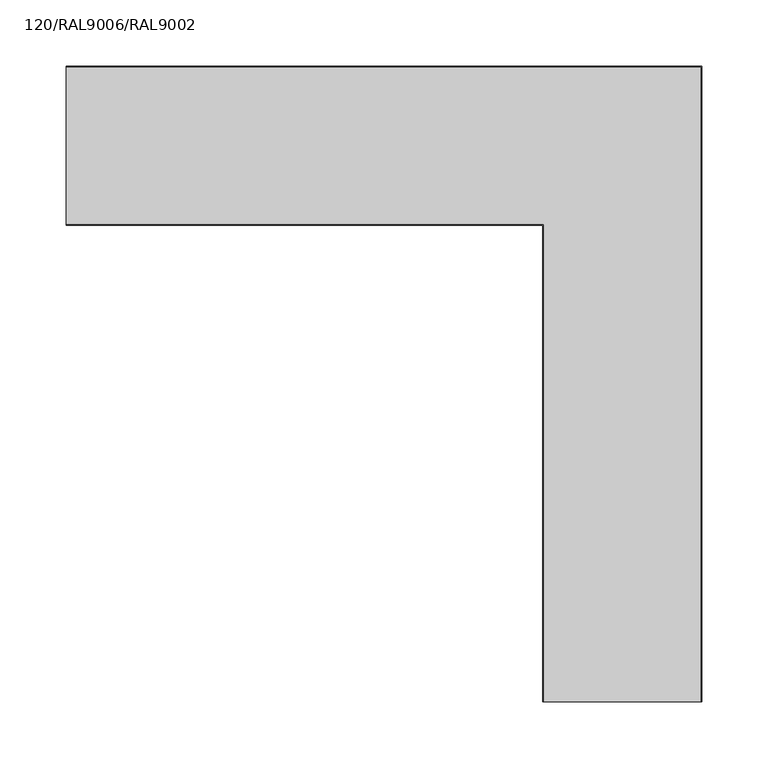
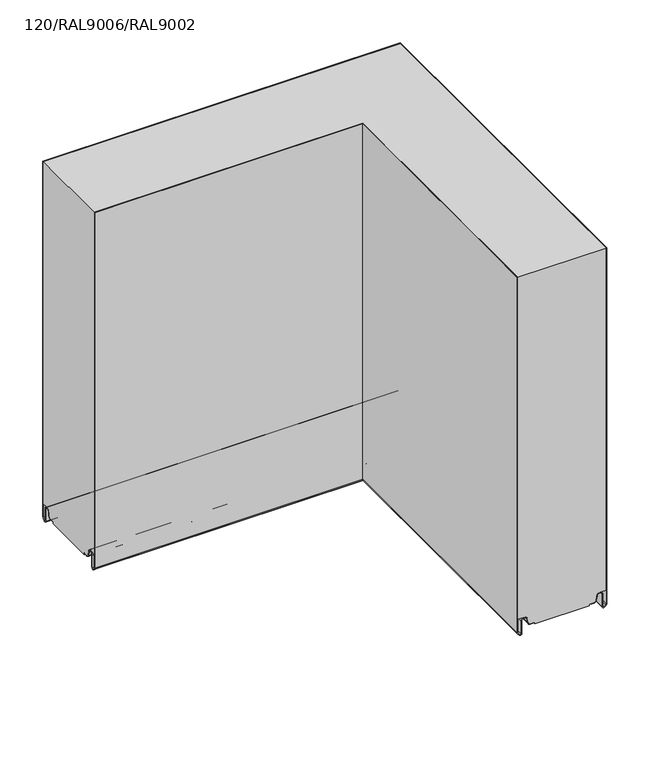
"""IFC4 building model written with IfcOpenShell, lengths in millimetres: plate geometry, TR_C_H_FTV_Corner_Tr_A_cut_GROOVE : 120/RAL9006/RAL9002."""

from ifc_helpers import new_model, si_unit, frame, origin, place, context, project, spatial, polyline, circle_curve, ellipse_curve, source, transform, mapped, element, save
from ifc_brep_helpers import plane_surface, cylinder_surface, revolved_surface, advanced_brep


def plate_120_ral9006_ral9002_a23da970(model_context):
    return source(origin(), model_context, "Body", "AdvancedBrep", [
        advanced_brep(
        [(120.8, -480.0, 14.4000012), (129.45, -480.0, 14.4000012), (133.635433, -480.0, 10.8880059), (134.7022582, -480.0, 4.837739), (137.6074411, -480.0, 2.4000012), (143.7, -480.0, 2.4000012), (143.7, -480.0, 0.0), (216.3, -480.0, 0.0), (216.3, -480.0, 2.4000012), (222.3925589, -480.0, 2.4000012), (225.2977418, -480.0, 4.837739), (226.364567, -480.0, 10.8880059), (230.55, -480.0, 14.4000012), (239.2, -480.0, 14.4000012), (239.2, -480.0, 500.0), (120.8, -480.0, 500.0), (133.635433, -106.364567, 10.8880059), (129.45, -110.55, 14.4000012), (-240.0, -110.55, 14.4000012), (-240.0, -106.364567, 10.8880059), (-240.0, -105.2977418, 4.837739), (134.7022582, -105.2977418, 4.837739), (-240.0, -102.3925589, 2.4000012), (137.6074411, -102.3925589, 2.4000012), (143.7, -96.3, 0.0), (143.7, -96.3, 2.4000012), (-240.0, -96.3, 2.4000012), (-240.0, -96.3, 0.0), (216.3, -23.7, 2.4000012), (216.3, -23.7, 0.0), (-240.0, -23.7, 0.0), (-240.0, -23.7, 2.4000012), (225.2977418, -14.7022582, 4.837739), (222.3925589, -17.6074411, 2.4000012), (-240.0, -17.6074411, 2.4000012), (-240.0, -14.7022582, 4.837739), (-240.0, -13.635433, 10.8880059), (226.364567, -13.635433, 10.8880059), (-240.0, -9.45, 14.4000012), (230.55, -9.45, 14.4000012), (-240.0, -119.2, 14.4000012), (-240.0, -119.2, 500.0), (-240.0, -0.8, 500.0), (-240.0, -0.8, 14.4000012), (120.8, -119.2, 14.4000012), (239.2, -0.8, 14.4000012), (239.2, -0.8, 500.0), (120.8, -119.2, 500.0)],
        [
            (0, 1),
            (1, 2, circle_curve(frame((129.45, -480.0, 10.1500012), z_axis=(0.0, 1.0, 0.0), x_axis=(-1.0, 0.0, 0.0)), 4.25)),
            (2, 3),
            (3, 4, circle_curve(frame((137.6074411, -480.0, 5.3500012), z_axis=(0.0, -1.0, 0.0), x_axis=(-1.0, 0.0, 0.0)), 2.95)),
            (4, 5),
            (5, 6),
            (6, 7),
            (7, 8),
            (8, 9),
            (9, 10, circle_curve(frame((222.3925589, -480.0, 5.3500012), z_axis=(0.0, -1.0, 0.0), x_axis=(-1.0, 0.0, 0.0)), 2.95)),
            (10, 11),
            (11, 12, circle_curve(frame((230.55, -480.0, 10.1500012), z_axis=(0.0, 1.0, 0.0), x_axis=(-1.0, 0.0, 0.0)), 4.25)),
            (12, 13),
            (13, 14),
            (14, 15),
            (15, 0),
            (16, 17, ellipse_curve(frame((129.45, -110.55, 10.1500012), z_axis=(0.7071067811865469, -0.7071067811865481, 0.0), x_axis=(-0.7071067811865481, -0.7071067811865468, 0.0)), 6.0104076, 4.25)),
            (17, 18),
            (18, 19, circle_curve(frame((-240.0, -110.55, 10.1500012), z_axis=(-1.0, 0.0, 0.0), x_axis=(0.0, -1.0, 0.0)), 4.25)),
            (19, 16),
            (19, 20),
            (20, 21),
            (21, 16),
            (20, 22, circle_curve(frame((-240.0, -102.3925589, 5.3500012), z_axis=(1.0, 0.0, 0.0), x_axis=(0.0, -1.0, 0.0)), 2.95)),
            (22, 23),
            (23, 21, ellipse_curve(frame((137.6074411, -102.3925589, 5.3500012), z_axis=(-0.7071067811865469, 0.7071067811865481, 0.0), x_axis=(0.7071067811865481, 0.7071067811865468, 0.0)), 4.17193, 2.95)),
            (24, 25),
            (25, 26),
            (26, 27),
            (27, 24),
            (28, 29),
            (29, 30),
            (30, 31),
            (31, 28),
            (32, 33, ellipse_curve(frame((222.3925589, -17.6074411, 5.3500012), z_axis=(-0.7071067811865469, 0.7071067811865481, 0.0), x_axis=(0.7071067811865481, 0.7071067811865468, 0.0)), 4.17193, 2.95)),
            (33, 34),
            (34, 35, circle_curve(frame((-240.0, -17.6074411, 5.3500012), z_axis=(1.0, 0.0, 0.0), x_axis=(0.0, -1.0, 0.0)), 2.95)),
            (35, 32),
            (35, 36),
            (36, 37),
            (37, 32),
            (36, 38, circle_curve(frame((-240.0, -9.45, 10.1500012), z_axis=(-1.0, 0.0, 0.0), x_axis=(0.0, -1.0, 0.0)), 4.25)),
            (38, 39),
            (39, 37, ellipse_curve(frame((230.55, -9.45, 10.1500012), z_axis=(0.7071067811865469, -0.7071067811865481, 0.0), x_axis=(-0.7071067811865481, -0.7071067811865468, 0.0)), 6.0104076, 4.25)),
            (18, 40),
            (40, 41),
            (41, 42),
            (42, 43),
            (43, 38),
            (34, 31),
            (30, 27),
            (26, 22),
            (0, 44),
            (44, 40),
            (17, 1),
            (16, 2),
            (21, 3),
            (23, 4),
            (25, 5),
            (24, 6),
            (29, 7),
            (28, 8),
            (33, 9),
            (32, 10),
            (37, 11),
            (39, 12),
            (43, 45),
            (45, 13),
            (45, 46),
            (46, 14),
            (15, 47),
            (47, 44),
            (42, 46),
            (47, 41),
        ],
        [
            plane_surface(frame((240.0, -480.0, 0.0), z_axis=(0.0, -1.0, 0.0), x_axis=(0.0, 0.0, 1.0))),
            revolved_surface(polyline([(-240.0, -114.8, 10.1500012), (133.69999997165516, -114.8, 10.1500012)]), (240.0, -110.55, 10.1500012), (-1.0, 0.0, 0.0)),
            plane_surface(frame((133.635433, -106.364567, 10.8880059), z_axis=(0.0, -0.9848077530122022, -0.1736481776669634), x_axis=(-1.0, 0.0, 0.0))),
            cylinder_surface(frame((240.0, -102.3925589, 5.3500012), z_axis=(1.0, 0.0, 0.0), x_axis=(0.0, -1.0, 0.0)), 2.95),
            plane_surface(frame((143.7, -96.3, 2.4000012), z_axis=(0.0, -1.0, 0.0), x_axis=(-1.0, 0.0, 0.0))),
            plane_surface(frame((216.3, -23.7, 0.0), z_axis=(0.0, 1.0, 0.0), x_axis=(-1.0, 0.0, 0.0))),
            cylinder_surface(frame((240.0, -17.6074411, 5.3500012), z_axis=(1.0, 0.0, 0.0), x_axis=(0.0, -1.0, 0.0)), 2.95),
            plane_surface(frame((225.2977418, -14.7022582, 4.837739), z_axis=(0.0, 0.9848077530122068, -0.1736481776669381), x_axis=(-1.0, 0.0, 0.0))),
            revolved_surface(polyline([(-240.0, -13.7, 10.1500012), (234.79999997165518, -13.7, 10.1500012)]), (240.0, -9.45, 10.1500012), (-1.0, 0.0, 0.0)),
            plane_surface(frame((-240.0, 0.0, 0.0), z_axis=(-1.0, 0.0, 0.0), x_axis=(0.0, 0.0, 1.0))),
            plane_surface(frame((120.8, -480.0, 14.4000012), z_axis=(0.0, 0.0, -1.0), x_axis=(0.0, 1.0, 0.0))),
            revolved_surface(polyline([(125.19999999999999, -106.30000002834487, 10.1500012), (125.19999999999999, -480.0, 10.1500012)]), (129.45, -480.0, 10.1500012), (0.0, 1.0, 0.0)),
            plane_surface(frame((133.635433, -480.0, 10.8880059), z_axis=(-0.9848077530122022, 0.0, -0.1736481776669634), x_axis=(0.0, 1.0, 0.0))),
            cylinder_surface(frame((137.6074411, -480.0, 5.3500012), z_axis=(0.0, -1.0, 0.0), x_axis=(-1.0, 0.0, 0.0)), 2.95),
            plane_surface(frame((137.6074411, -480.0, 2.4000012), z_axis=(0.0, 0.0, -1.0), x_axis=(0.0, 1.0, 0.0))),
            plane_surface(frame((143.7, -480.0, 2.4000012), z_axis=(-1.0, 0.0, 0.0), x_axis=(0.0, 1.0, 0.0))),
            plane_surface(frame((143.7, -480.0, 0.0), z_axis=(0.0, 0.0, -1.0), x_axis=(0.0, 1.0, 0.0))),
            plane_surface(frame((216.3, -480.0, 0.0), z_axis=(1.0, 0.0, 0.0), x_axis=(0.0, 1.0, 0.0))),
            plane_surface(frame((216.3, -480.0, 2.4000012), z_axis=(0.0, 0.0, -1.0), x_axis=(0.0, 1.0, 0.0))),
            cylinder_surface(frame((222.3925589, -480.0, 5.3500012), z_axis=(0.0, -1.0, 0.0), x_axis=(-1.0, 0.0, 0.0)), 2.95),
            plane_surface(frame((225.2977418, -480.0, 4.837739), z_axis=(0.9848077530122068, 0.0, -0.1736481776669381), x_axis=(0.0, 1.0, 0.0))),
            revolved_surface(polyline([(226.3, -5.200000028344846, 10.1500012), (226.3, -480.0, 10.1500012)]), (230.55, -480.0, 10.1500012), (0.0, 1.0, 0.0)),
            plane_surface(frame((230.55, -480.0, 14.4000012), z_axis=(0.0, 0.0, -1.0), x_axis=(0.0, 1.0, 0.0))),
            plane_surface(frame((239.2, -480.0, 14.4000012), z_axis=(1.0, 0.0, 0.0), x_axis=(0.0, 1.0, 0.0))),
            plane_surface(frame((120.8, -480.0, 984.3218254), z_axis=(-1.0, 0.0, 0.0), x_axis=(0.0, 1.0, 0.0))),
            plane_surface(frame((239.2, -0.8, 14.4000012), z_axis=(0.0, 1.0, 0.0), x_axis=(-1.0, 0.0, 0.0))),
            plane_surface(frame((120.8, -119.2, 984.3218254), z_axis=(0.0, -1.0, 0.0), x_axis=(-1.0, 0.0, 0.0))),
            plane_surface(frame((120.0, -480.0, 500.0), z_axis=(0.0, 0.0, 1.0), x_axis=(0.0, 1.0, 0.0))),
        ],
        [
            (0, [[1, 2, 3, 4, 5, 6, 7, 8, 9, 10, 11, 12, 13, 14, 15, 16]]),
            (1, [[17, 18, 19, 20]]),
            (2, [[-20, 21, 22, 23]]),
            (3, [[-22, 24, 25, 26]]),
            (4, [[27, 28, 29, 30]]),
            (5, [[31, 32, 33, 34]]),
            (6, [[35, 36, 37, 38]]),
            (7, [[-38, 39, 40, 41]]),
            (8, [[-40, 42, 43, 44]]),
            (9, [[-19, 45, 46, 47, 48, 49, -42, -39, -37, 50, -33, 51, -29, 52, -24, -21]]),
            (10, [[-1, 53, 54, -45, -18, 55]]),
            (11, [[-2, -55, -17, 56]]),
            (12, [[-3, -56, -23, 57]]),
            (13, [[-4, -57, -26, 58]]),
            (14, [[-5, -58, -25, -52, -28, 59]]),
            (15, [[-6, -59, -27, 60]]),
            (16, [[-7, -60, -30, -51, -32, 61]]),
            (17, [[-8, -61, -31, 62]]),
            (18, [[-9, -62, -34, -50, -36, 63]]),
            (19, [[-10, -63, -35, 64]]),
            (20, [[-11, -64, -41, 65]]),
            (21, [[-12, -65, -44, 66]]),
            (22, [[-13, -66, -43, -49, 67, 68]]),
            (23, [[-68, 69, 70, -14]]),
            (24, [[-53, -16, 71, 72]]),
            (25, [[-67, -48, 73, -69]]),
            (26, [[-54, -72, 74, -46]]),
            (27, [[-15, -70, -73, -47, -74, -71]]),
        ],
    ),
        advanced_brep(
        [(239.2, -480.0, -5.018628), (238.6288582, -480.0, -6.3974862), (236.7631728, -480.0, -8.2631716), (234.8, -480.0, -7.4499988), (234.8, -480.0, 10.1500012), (226.364567, -480.0, 10.8880059), (225.2977418, -480.0, 4.837739), (222.3925589, -480.0, 2.4000012), (219.0, -480.0, 2.4000012), (219.0, -480.0, 1.6000012), (222.3925589, -480.0, 1.6000012), (226.085588, -480.0, 4.6988205), (227.1524133, -480.0, 10.7490874), (234.0, -480.0, 10.1500012), (234.0, -480.0, -7.4499988), (237.3288582, -480.0, -8.8288571), (239.1945436, -480.0, -6.9631716), (240.0, -480.0, -5.018628), (240.0, -480.0, 500.0), (239.2, -480.0, 500.0), (238.6288582, -1.3711418, -6.3974862), (239.2, -0.8, -5.018628), (-240.0, -0.8, -5.018628), (-240.0, -1.3711418, -6.3974862), (-240.0, -3.2368272, -8.2631716), (236.7631728, -3.2368272, -8.2631716), (-240.0, -5.2, -7.4499988), (234.8, -5.2, -7.4499988), (-240.0, -5.2, 10.1500012), (234.8, -5.2, 10.1500012), (-240.0, -13.635433, 10.8880059), (226.364567, -13.635433, 10.8880059), (-240.0, -14.7022582, 4.837739), (225.2977418, -14.7022582, 4.837739), (-240.0, -17.6074411, 2.4000012), (222.3925589, -17.6074411, 2.4000012), (219.0, -21.0, 1.6000012), (219.0, -21.0, 2.4000012), (-240.0, -21.0, 2.4000012), (-240.0, -21.0, 1.6000012), (226.085588, -13.914412, 4.6988205), (222.3925589, -17.6074411, 1.6000012), (-240.0, -17.6074411, 1.6000012), (-240.0, -13.914412, 4.6988205), (-240.0, -12.8475867, 10.7490874), (227.1524133, -12.8475867, 10.7490874), (-240.0, -6.0, 10.1500012), (234.0, -6.0, 10.1500012), (-240.0, -6.0, -7.4499988), (234.0, -6.0, -7.4499988), (-240.0, -2.6711418, -8.8288571), (237.3288582, -2.6711418, -8.8288571), (-240.0, -0.8054564, -6.9631716), (239.1945436, -0.8054564, -6.9631716), (-240.0, 0.0, -5.018628), (240.0, 0.0, -5.018628), (-240.0, -0.8, 500.0), (-240.0, 0.0, 500.0), (240.0, 0.0, 500.0), (239.2, -0.8, 500.0)],
        [
            (0, 1, circle_curve(frame((237.25, -480.0, -5.018628), z_axis=(0.0, 1.0, 0.0), x_axis=(-1.0, 0.0, 0.0)), 1.95)),
            (1, 2),
            (2, 3, circle_curve(frame((235.95, -480.0, -7.4499988), z_axis=(0.0, 1.0, 0.0), x_axis=(-1.0, 0.0, 0.0)), 1.15)),
            (3, 4),
            (4, 5, circle_curve(frame((230.55, -480.0, 10.1500012), z_axis=(0.0, -1.0, 0.0), x_axis=(-1.0, 0.0, 0.0)), 4.25)),
            (5, 6),
            (6, 7, circle_curve(frame((222.3925589, -480.0, 5.3500012), z_axis=(0.0, 1.0, 0.0), x_axis=(-1.0, 0.0, 0.0)), 2.95)),
            (7, 8),
            (8, 9),
            (9, 10),
            (10, 11, circle_curve(frame((222.3925589, -480.0, 5.3500012), z_axis=(0.0, -1.0, 0.0), x_axis=(-1.0, 0.0, 0.0)), 3.75)),
            (11, 12),
            (12, 13, circle_curve(frame((230.55, -480.0, 10.1500012), z_axis=(0.0, 1.0, 0.0), x_axis=(-1.0, 0.0, 0.0)), 3.45)),
            (13, 14),
            (14, 15, circle_curve(frame((235.95, -480.0, -7.4499988), z_axis=(0.0, -1.0, 0.0), x_axis=(-1.0, 0.0, 0.0)), 1.95)),
            (15, 16),
            (16, 17, circle_curve(frame((237.25, -480.0, -5.018628), z_axis=(0.0, -1.0, 0.0), x_axis=(-1.0, 0.0, 0.0)), 2.75)),
            (17, 18),
            (18, 19),
            (19, 0),
            (20, 21, ellipse_curve(frame((237.25, -2.75, -5.018628), z_axis=(0.7071067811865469, -0.7071067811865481, 0.0), x_axis=(-0.7071067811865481, -0.7071067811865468, 0.0)), 2.7577164, 1.95)),
            (21, 22),
            (22, 23, circle_curve(frame((-240.0, -2.75, -5.018628), z_axis=(-1.0, 0.0, 0.0), x_axis=(0.0, -1.0, 0.0)), 1.95)),
            (23, 20),
            (23, 24),
            (24, 25),
            (25, 20),
            (24, 26, circle_curve(frame((-240.0, -4.05, -7.4499988), z_axis=(-1.0, 0.0, 0.0), x_axis=(0.0, -1.0, 0.0)), 1.15)),
            (26, 27),
            (27, 25, ellipse_curve(frame((235.95, -4.05, -7.4499988), z_axis=(0.7071067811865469, -0.7071067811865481, 0.0), x_axis=(-0.7071067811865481, -0.7071067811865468, 0.0)), 1.6263456, 1.15)),
            (26, 28),
            (28, 29),
            (29, 27),
            (28, 30, circle_curve(frame((-240.0, -9.45, 10.1500012), z_axis=(1.0, 0.0, 0.0), x_axis=(0.0, -1.0, 0.0)), 4.25)),
            (30, 31),
            (31, 29, ellipse_curve(frame((230.55, -9.45, 10.1500012), z_axis=(-0.7071067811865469, 0.7071067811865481, 0.0), x_axis=(0.7071067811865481, 0.7071067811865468, 0.0)), 6.0104076, 4.25)),
            (30, 32),
            (32, 33),
            (33, 31),
            (32, 34, circle_curve(frame((-240.0, -17.6074411, 5.3500012), z_axis=(-1.0, 0.0, 0.0), x_axis=(0.0, -1.0, 0.0)), 2.95)),
            (34, 35),
            (35, 33, ellipse_curve(frame((222.3925589, -17.6074411, 5.3500012), z_axis=(0.7071067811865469, -0.7071067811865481, 0.0), x_axis=(-0.7071067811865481, -0.7071067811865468, 0.0)), 4.17193, 2.95)),
            (36, 37),
            (37, 38),
            (38, 39),
            (39, 36),
            (40, 41, ellipse_curve(frame((222.3925589, -17.6074411, 5.3500012), z_axis=(-0.7071067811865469, 0.7071067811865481, 0.0), x_axis=(0.7071067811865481, 0.7071067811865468, 0.0)), 5.3033009, 3.75)),
            (41, 42),
            (42, 43, circle_curve(frame((-240.0, -17.6074411, 5.3500012), z_axis=(1.0, 0.0, 0.0), x_axis=(0.0, -1.0, 0.0)), 3.75)),
            (43, 40),
            (43, 44),
            (44, 45),
            (45, 40),
            (44, 46, circle_curve(frame((-240.0, -9.45, 10.1500012), z_axis=(-1.0, 0.0, 0.0), x_axis=(0.0, -1.0, 0.0)), 3.45)),
            (46, 47),
            (47, 45, ellipse_curve(frame((230.55, -9.45, 10.1500012), z_axis=(0.7071067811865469, -0.7071067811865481, 0.0), x_axis=(-0.7071067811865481, -0.7071067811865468, 0.0)), 4.8790368, 3.45)),
            (46, 48),
            (48, 49),
            (49, 47),
            (48, 50, circle_curve(frame((-240.0, -4.05, -7.4499988), z_axis=(1.0, 0.0, 0.0), x_axis=(0.0, -1.0, 0.0)), 1.95)),
            (50, 51),
            (51, 49, ellipse_curve(frame((235.95, -4.05, -7.4499988), z_axis=(-0.7071067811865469, 0.7071067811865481, 0.0), x_axis=(0.7071067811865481, 0.7071067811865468, 0.0)), 2.7577164, 1.95)),
            (50, 52),
            (52, 53),
            (53, 51),
            (52, 54, circle_curve(frame((-240.0, -2.75, -5.018628), z_axis=(1.0, 0.0, 0.0), x_axis=(0.0, -1.0, 0.0)), 2.75)),
            (54, 55),
            (55, 53, ellipse_curve(frame((237.25, -2.75, -5.018628), z_axis=(-0.7071067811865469, 0.7071067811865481, 0.0), x_axis=(0.7071067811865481, 0.7071067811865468, 0.0)), 3.8890873, 2.75)),
            (22, 56),
            (56, 57),
            (57, 54),
            (42, 39),
            (38, 34),
            (0, 21),
            (20, 1),
            (25, 2),
            (27, 3),
            (29, 4),
            (31, 5),
            (33, 6),
            (35, 7),
            (37, 8),
            (36, 9),
            (41, 10),
            (40, 11),
            (45, 12),
            (47, 13),
            (49, 14),
            (51, 15),
            (53, 16),
            (55, 17),
            (55, 58),
            (58, 18),
            (19, 59),
            (59, 21),
            (57, 58),
            (59, 56),
        ],
        [
            plane_surface(frame((240.0, -480.0, 0.0), z_axis=(0.0, -1.0, 0.0), x_axis=(0.0, 0.0, 1.0))),
            revolved_surface(polyline([(-240.0, -4.7, -5.018628), (239.2, -4.7, -5.018628)]), (240.0, -2.75, -5.018628), (-1.0, 0.0, 0.0)),
            plane_surface(frame((238.6288582, -1.3711418, -6.3974862), z_axis=(0.0, -0.7071067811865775, 0.7071067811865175), x_axis=(-1.0, 0.0, 0.0))),
            revolved_surface(polyline([(-240.0, -5.199999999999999, -7.4499988), (237.1000000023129, -5.199999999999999, -7.4499988)]), (240.0, -4.05, -7.4499988), (-1.0, 0.0, 0.0)),
            plane_surface(frame((234.8, -5.2, -7.4499988), z_axis=(0.0, 1.0, 0.0), x_axis=(-1.0, 0.0, 0.0))),
            cylinder_surface(frame((240.0, -9.45, 10.1500012), z_axis=(1.0, 0.0, 0.0), x_axis=(0.0, -1.0, 0.0)), 4.25),
            plane_surface(frame((226.364567, -13.635433, 10.8880059), z_axis=(0.0, -0.9848077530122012, 0.17364817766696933), x_axis=(-1.0, 0.0, 0.0))),
            revolved_surface(polyline([(-240.0, -20.5574411, 5.3500012), (225.3425588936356, -20.5574411, 5.3500012)]), (240.0, -17.6074411, 5.3500012), (-1.0, 0.0, 0.0)),
            plane_surface(frame((219.0, -21.0, 2.4000012), z_axis=(0.0, -1.0, 0.0), x_axis=(-1.0, 0.0, 0.0))),
            cylinder_surface(frame((240.0, -17.6074411, 5.3500012), z_axis=(1.0, 0.0, 0.0), x_axis=(0.0, -1.0, 0.0)), 3.75),
            plane_surface(frame((226.085588, -13.914412, 4.6988205), z_axis=(0.0, 0.9848077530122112, -0.17364817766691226), x_axis=(-1.0, 0.0, 0.0))),
            revolved_surface(polyline([(-240.0, -12.899999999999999, 10.1500012), (234.00000000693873, -12.899999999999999, 10.1500012)]), (240.0, -9.45, 10.1500012), (-1.0, 0.0, 0.0)),
            plane_surface(frame((234.0, -6.0, 10.1500012), z_axis=(0.0, -1.0, 0.0), x_axis=(-1.0, 0.0, 0.0))),
            cylinder_surface(frame((240.0, -4.05, -7.4499988), z_axis=(1.0, 0.0, 0.0), x_axis=(0.0, -1.0, 0.0)), 1.95),
            plane_surface(frame((237.3288582, -2.6711418, -8.8288571), z_axis=(0.0, 0.7071067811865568, -0.7071067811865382), x_axis=(-1.0, 0.0, 0.0))),
            cylinder_surface(frame((240.0, -2.75, -5.018628), z_axis=(1.0, 0.0, 0.0), x_axis=(0.0, -1.0, 0.0)), 2.75),
            plane_surface(frame((-240.0, 0.0, 0.0), z_axis=(-1.0, 0.0, 0.0), x_axis=(0.0, 0.0, 1.0))),
            revolved_surface(polyline([(235.3, -0.8000000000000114, -5.018628), (235.3, -480.0, -5.018628)]), (237.25, -480.0, -5.018628), (0.0, 1.0, 0.0)),
            plane_surface(frame((238.6288582, -480.0, -6.3974862), z_axis=(-0.7071067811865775, 0.0, 0.7071067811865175), x_axis=(0.0, 1.0, 0.0))),
            revolved_surface(polyline([(234.79999999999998, -2.8999999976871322, -7.4499988), (234.79999999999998, -480.0, -7.4499988)]), (235.95, -480.0, -7.4499988), (0.0, 1.0, 0.0)),
            plane_surface(frame((234.8, -480.0, -7.4499988), z_axis=(1.0, 0.0, 0.0), x_axis=(0.0, 1.0, 0.0))),
            cylinder_surface(frame((230.55, -480.0, 10.1500012), z_axis=(0.0, -1.0, 0.0), x_axis=(-1.0, 0.0, 0.0)), 4.25),
            plane_surface(frame((226.364567, -480.0, 10.8880059), z_axis=(-0.9848077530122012, 0.0, 0.17364817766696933), x_axis=(0.0, 1.0, 0.0))),
            revolved_surface(polyline([(219.44255890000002, -14.657441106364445, 5.3500012), (219.44255890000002, -480.0, 5.3500012)]), (222.3925589, -480.0, 5.3500012), (0.0, 1.0, 0.0)),
            plane_surface(frame((222.3925589, -480.0, 2.4000012), z_axis=(0.0, 0.0, 1.0), x_axis=(0.0, 1.0, 0.0))),
            plane_surface(frame((219.0, -480.0, 2.4000012), z_axis=(-1.0, 0.0, 0.0), x_axis=(0.0, 1.0, 0.0))),
            plane_surface(frame((219.0, -480.0, 1.6000012), z_axis=(0.0, 0.0, -1.0), x_axis=(0.0, 1.0, 0.0))),
            cylinder_surface(frame((222.3925589, -480.0, 5.3500012), z_axis=(0.0, -1.0, 0.0), x_axis=(-1.0, 0.0, 0.0)), 3.75),
            plane_surface(frame((226.085588, -480.0, 4.6988205), z_axis=(0.9848077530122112, 0.0, -0.17364817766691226), x_axis=(0.0, 1.0, 0.0))),
            revolved_surface(polyline([(227.10000000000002, -5.999999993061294, 10.1500012), (227.10000000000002, -480.0, 10.1500012)]), (230.55, -480.0, 10.1500012), (0.0, 1.0, 0.0)),
            plane_surface(frame((234.0, -480.0, 10.1500012), z_axis=(-1.0, 0.0, 0.0), x_axis=(0.0, 1.0, 0.0))),
            cylinder_surface(frame((235.95, -480.0, -7.4499988), z_axis=(0.0, -1.0, 0.0), x_axis=(-1.0, 0.0, 0.0)), 1.95),
            plane_surface(frame((237.3288582, -480.0, -8.8288571), z_axis=(0.7071067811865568, 0.0, -0.7071067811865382), x_axis=(0.0, 1.0, 0.0))),
            cylinder_surface(frame((237.25, -480.0, -5.018628), z_axis=(0.0, -1.0, 0.0), x_axis=(-1.0, 0.0, 0.0)), 2.75),
            plane_surface(frame((240.0, -480.0, -5.018628), z_axis=(1.0, 0.0, 0.0), x_axis=(0.0, 1.0, 0.0))),
            plane_surface(frame((239.2, -480.0, 984.3218254), z_axis=(-1.0, 0.0, 0.0), x_axis=(0.0, 1.0, 0.0))),
            plane_surface(frame((240.0, 0.0, -5.018628), z_axis=(0.0, 1.0, 0.0), x_axis=(-1.0, 0.0, 0.0))),
            plane_surface(frame((239.2, -0.8, 984.3218254), z_axis=(0.0, -1.0, 0.0), x_axis=(-1.0, 0.0, 0.0))),
            plane_surface(frame((120.0, -480.0, 500.0), z_axis=(0.0, 0.0, 1.0), x_axis=(0.0, 1.0, 0.0))),
        ],
        [
            (0, [[1, 2, 3, 4, 5, 6, 7, 8, 9, 10, 11, 12, 13, 14, 15, 16, 17, 18, 19, 20]]),
            (1, [[21, 22, 23, 24]]),
            (2, [[-24, 25, 26, 27]]),
            (3, [[-26, 28, 29, 30]]),
            (4, [[-29, 31, 32, 33]]),
            (5, [[-32, 34, 35, 36]]),
            (6, [[-35, 37, 38, 39]]),
            (7, [[-38, 40, 41, 42]]),
            (8, [[43, 44, 45, 46]]),
            (9, [[47, 48, 49, 50]]),
            (10, [[-50, 51, 52, 53]]),
            (11, [[-52, 54, 55, 56]]),
            (12, [[-55, 57, 58, 59]]),
            (13, [[-58, 60, 61, 62]]),
            (14, [[-61, 63, 64, 65]]),
            (15, [[-64, 66, 67, 68]]),
            (16, [[-23, 69, 70, 71, -66, -63, -60, -57, -54, -51, -49, 72, -45, 73, -40, -37, -34, -31, -28, -25]]),
            (17, [[-1, 74, -21, 75]]),
            (18, [[-2, -75, -27, 76]]),
            (19, [[-3, -76, -30, 77]]),
            (20, [[-4, -77, -33, 78]]),
            (21, [[-5, -78, -36, 79]]),
            (22, [[-6, -79, -39, 80]]),
            (23, [[-7, -80, -42, 81]]),
            (24, [[-8, -81, -41, -73, -44, 82]]),
            (25, [[-9, -82, -43, 83]]),
            (26, [[-10, -83, -46, -72, -48, 84]]),
            (27, [[-11, -84, -47, 85]]),
            (28, [[-12, -85, -53, 86]]),
            (29, [[-13, -86, -56, 87]]),
            (30, [[-14, -87, -59, 88]]),
            (31, [[-15, -88, -62, 89]]),
            (32, [[-16, -89, -65, 90]]),
            (33, [[-17, -90, -68, 91]]),
            (34, [[-91, 92, 93, -18]]),
            (35, [[-74, -20, 94, 95]]),
            (36, [[-67, -71, 96, -92]]),
            (37, [[-22, -95, 97, -69]]),
            (38, [[-19, -93, -96, -70, -97, -94]]),
        ],
    ),
        advanced_brep(
        [(120.0, -480.0, -5.018628), (120.8054564, -480.0, -6.9631716), (122.6711418, -480.0, -8.8288571), (126.0, -480.0, -7.4499988), (126.0, -480.0, 10.1500012), (132.8475867, -480.0, 10.7490874), (133.914412, -480.0, 4.6988205), (137.6074411, -480.0, 1.6000012), (141.0, -480.0, 1.6000012), (141.0, -480.0, 2.4000012), (137.6074411, -480.0, 2.4000012), (134.7022582, -480.0, 4.837739), (133.635433, -480.0, 10.8880059), (125.2, -480.0, 10.1500012), (125.2, -480.0, -7.4499988), (123.2368272, -480.0, -8.2631716), (121.3711418, -480.0, -6.3974862), (120.8, -480.0, -5.018628), (120.8, -480.0, 500.0), (120.0, -480.0, 500.0), (120.8054564, -119.1945436, -6.9631716), (120.0, -120.0, -5.018628), (-240.0, -120.0, -5.018628), (-240.0, -119.1945436, -6.9631716), (-240.0, -117.3288582, -8.8288571), (122.6711418, -117.3288582, -8.8288571), (-240.0, -114.0, -7.4499988), (126.0, -114.0, -7.4499988), (-240.0, -114.0, 10.1500012), (126.0, -114.0, 10.1500012), (-240.0, -107.1524133, 10.7490874), (132.8475867, -107.1524133, 10.7490874), (-240.0, -106.085588, 4.6988205), (133.914412, -106.085588, 4.6988205), (-240.0, -102.3925589, 1.6000012), (137.6074411, -102.3925589, 1.6000012), (141.0, -99.0, 2.4000012), (141.0, -99.0, 1.6000012), (-240.0, -99.0, 1.6000012), (-240.0, -99.0, 2.4000012), (134.7022582, -105.2977418, 4.837739), (137.6074411, -102.3925589, 2.4000012), (-240.0, -102.3925589, 2.4000012), (-240.0, -105.2977418, 4.837739), (-240.0, -106.364567, 10.8880059), (133.635433, -106.364567, 10.8880059), (-240.0, -114.8, 10.1500012), (125.2, -114.8, 10.1500012), (-240.0, -114.8, -7.4499988), (125.2, -114.8, -7.4499988), (-240.0, -116.7631728, -8.2631716), (123.2368272, -116.7631728, -8.2631716), (-240.0, -118.6288582, -6.3974862), (121.3711418, -118.6288582, -6.3974862), (-240.0, -119.2, -5.018628), (120.8, -119.2, -5.018628), (-240.0, -120.0, 500.0), (-240.0, -119.2, 500.0), (120.8, -119.2, 500.0), (120.0, -120.0, 500.0)],
        [
            (0, 1, circle_curve(frame((122.75, -480.0, -5.018628), z_axis=(0.0, -1.0, 0.0), x_axis=(-1.0, 0.0, 0.0)), 2.75)),
            (1, 2),
            (2, 3, circle_curve(frame((124.05, -480.0, -7.4499988), z_axis=(0.0, -1.0, 0.0), x_axis=(-1.0, 0.0, 0.0)), 1.95)),
            (3, 4),
            (4, 5, circle_curve(frame((129.45, -480.0, 10.1500012), z_axis=(0.0, 1.0, 0.0), x_axis=(-1.0, 0.0, 0.0)), 3.45)),
            (5, 6),
            (6, 7, circle_curve(frame((137.6074411, -480.0, 5.3500012), z_axis=(0.0, -1.0, 0.0), x_axis=(-1.0, 0.0, 0.0)), 3.75)),
            (7, 8),
            (8, 9),
            (9, 10),
            (10, 11, circle_curve(frame((137.6074411, -480.0, 5.3500012), z_axis=(0.0, 1.0, 0.0), x_axis=(-1.0, 0.0, 0.0)), 2.95)),
            (11, 12),
            (12, 13, circle_curve(frame((129.45, -480.0, 10.1500012), z_axis=(0.0, -1.0, 0.0), x_axis=(-1.0, 0.0, 0.0)), 4.25)),
            (13, 14),
            (14, 15, circle_curve(frame((124.05, -480.0, -7.4499988), z_axis=(0.0, 1.0, 0.0), x_axis=(-1.0, 0.0, 0.0)), 1.15)),
            (15, 16),
            (16, 17, circle_curve(frame((122.75, -480.0, -5.018628), z_axis=(0.0, 1.0, 0.0), x_axis=(-1.0, 0.0, 0.0)), 1.95)),
            (17, 18),
            (18, 19),
            (19, 0),
            (20, 21, ellipse_curve(frame((122.75, -117.25, -5.018628), z_axis=(-0.7071067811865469, 0.7071067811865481, 0.0), x_axis=(0.7071067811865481, 0.7071067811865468, 0.0)), 3.8890873, 2.75)),
            (21, 22),
            (22, 23, circle_curve(frame((-240.0, -117.25, -5.018628), z_axis=(1.0, 0.0, 0.0), x_axis=(0.0, -1.0, 0.0)), 2.75)),
            (23, 20),
            (23, 24),
            (24, 25),
            (25, 20),
            (24, 26, circle_curve(frame((-240.0, -115.95, -7.4499988), z_axis=(1.0, 0.0, 0.0), x_axis=(0.0, -1.0, 0.0)), 1.95)),
            (26, 27),
            (27, 25, ellipse_curve(frame((124.05, -115.95, -7.4499988), z_axis=(-0.7071067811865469, 0.7071067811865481, 0.0), x_axis=(0.7071067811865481, 0.7071067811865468, 0.0)), 2.7577164, 1.95)),
            (26, 28),
            (28, 29),
            (29, 27),
            (28, 30, circle_curve(frame((-240.0, -110.55, 10.1500012), z_axis=(-1.0, 0.0, 0.0), x_axis=(0.0, -1.0, 0.0)), 3.45)),
            (30, 31),
            (31, 29, ellipse_curve(frame((129.45, -110.55, 10.1500012), z_axis=(0.7071067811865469, -0.7071067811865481, 0.0), x_axis=(-0.7071067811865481, -0.7071067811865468, 0.0)), 4.8790368, 3.45)),
            (30, 32),
            (32, 33),
            (33, 31),
            (32, 34, circle_curve(frame((-240.0, -102.3925589, 5.3500012), z_axis=(1.0, 0.0, 0.0), x_axis=(0.0, -1.0, 0.0)), 3.75)),
            (34, 35),
            (35, 33, ellipse_curve(frame((137.6074411, -102.3925589, 5.3500012), z_axis=(-0.7071067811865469, 0.7071067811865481, 0.0), x_axis=(0.7071067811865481, 0.7071067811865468, 0.0)), 5.3033009, 3.75)),
            (36, 37),
            (37, 38),
            (38, 39),
            (39, 36),
            (40, 41, ellipse_curve(frame((137.6074411, -102.3925589, 5.3500012), z_axis=(0.7071067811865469, -0.7071067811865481, 0.0), x_axis=(-0.7071067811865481, -0.7071067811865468, 0.0)), 4.17193, 2.95)),
            (41, 42),
            (42, 43, circle_curve(frame((-240.0, -102.3925589, 5.3500012), z_axis=(-1.0, 0.0, 0.0), x_axis=(0.0, -1.0, 0.0)), 2.95)),
            (43, 40),
            (43, 44),
            (44, 45),
            (45, 40),
            (44, 46, circle_curve(frame((-240.0, -110.55, 10.1500012), z_axis=(1.0, 0.0, 0.0), x_axis=(0.0, -1.0, 0.0)), 4.25)),
            (46, 47),
            (47, 45, ellipse_curve(frame((129.45, -110.55, 10.1500012), z_axis=(-0.7071067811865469, 0.7071067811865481, 0.0), x_axis=(0.7071067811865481, 0.7071067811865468, 0.0)), 6.0104076, 4.25)),
            (46, 48),
            (48, 49),
            (49, 47),
            (48, 50, circle_curve(frame((-240.0, -115.95, -7.4499988), z_axis=(-1.0, 0.0, 0.0), x_axis=(0.0, -1.0, 0.0)), 1.15)),
            (50, 51),
            (51, 49, ellipse_curve(frame((124.05, -115.95, -7.4499988), z_axis=(0.7071067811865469, -0.7071067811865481, 0.0), x_axis=(-0.7071067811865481, -0.7071067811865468, 0.0)), 1.6263456, 1.15)),
            (50, 52),
            (52, 53),
            (53, 51),
            (52, 54, circle_curve(frame((-240.0, -117.25, -5.018628), z_axis=(-1.0, 0.0, 0.0), x_axis=(0.0, -1.0, 0.0)), 1.95)),
            (54, 55),
            (55, 53, ellipse_curve(frame((122.75, -117.25, -5.018628), z_axis=(0.7071067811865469, -0.7071067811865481, 0.0), x_axis=(-0.7071067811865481, -0.7071067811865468, 0.0)), 2.7577164, 1.95)),
            (22, 56),
            (56, 57),
            (57, 54),
            (42, 39),
            (38, 34),
            (0, 21),
            (20, 1),
            (25, 2),
            (27, 3),
            (29, 4),
            (31, 5),
            (33, 6),
            (35, 7),
            (37, 8),
            (36, 9),
            (41, 10),
            (40, 11),
            (45, 12),
            (47, 13),
            (49, 14),
            (51, 15),
            (53, 16),
            (55, 17),
            (55, 58),
            (58, 18),
            (19, 59),
            (59, 21),
            (57, 58),
            (59, 56),
        ],
        [
            plane_surface(frame((240.0, -480.0, 0.0), z_axis=(0.0, -1.0, 0.0), x_axis=(0.0, 0.0, 1.0))),
            cylinder_surface(frame((240.0, -117.25, -5.018628), z_axis=(1.0, 0.0, 0.0), x_axis=(0.0, -1.0, 0.0)), 2.75),
            plane_surface(frame((120.8054564, -119.1945436, -6.9631716), z_axis=(0.0, -0.7071067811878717, -0.7071067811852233), x_axis=(-1.0, 0.0, 0.0))),
            cylinder_surface(frame((240.0, -115.95, -7.4499988), z_axis=(1.0, 0.0, 0.0), x_axis=(0.0, -1.0, 0.0)), 1.95),
            plane_surface(frame((126.0, -114.0, -7.4499988), z_axis=(0.0, 1.0, 0.0), x_axis=(-1.0, 0.0, 0.0))),
            revolved_surface(polyline([(-240.0, -114.0, 10.1500012), (132.9000000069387, -114.0, 10.1500012)]), (240.0, -110.55, 10.1500012), (-1.0, 0.0, 0.0)),
            plane_surface(frame((132.8475867, -107.1524133, 10.7490874), z_axis=(0.0, -0.9848077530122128, -0.173648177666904), x_axis=(-1.0, 0.0, 0.0))),
            cylinder_surface(frame((240.0, -102.3925589, 5.3500012), z_axis=(1.0, 0.0, 0.0), x_axis=(0.0, -1.0, 0.0)), 3.75),
            plane_surface(frame((141.0, -99.0, 1.6000012), z_axis=(0.0, 1.0, 0.0), x_axis=(-1.0, 0.0, 0.0))),
            revolved_surface(polyline([(-240.0, -105.3425589, 5.3500012), (140.5574410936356, -105.3425589, 5.3500012)]), (240.0, -102.3925589, 5.3500012), (-1.0, 0.0, 0.0)),
            plane_surface(frame((134.7022582, -105.2977418, 4.837739), z_axis=(0.0, 0.9848077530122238, 0.17364817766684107), x_axis=(-1.0, 0.0, 0.0))),
            cylinder_surface(frame((240.0, -110.55, 10.1500012), z_axis=(1.0, 0.0, 0.0), x_axis=(0.0, -1.0, 0.0)), 4.25),
            plane_surface(frame((125.2, -114.8, 10.1500012), z_axis=(0.0, -1.0, 0.0), x_axis=(-1.0, 0.0, 0.0))),
            revolved_surface(polyline([(-240.0, -117.10000000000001, -7.4499988), (125.2000000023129, -117.10000000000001, -7.4499988)]), (240.0, -115.95, -7.4499988), (-1.0, 0.0, 0.0)),
            plane_surface(frame((123.2368272, -116.7631728, -8.2631716), z_axis=(0.0, 0.7071067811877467, 0.7071067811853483), x_axis=(-1.0, 0.0, 0.0))),
            revolved_surface(polyline([(-240.0, -119.2, -5.018628), (124.69999996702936, -119.2, -5.018628)]), (240.0, -117.25, -5.018628), (-1.0, 0.0, 0.0)),
            plane_surface(frame((-240.0, 0.0, 0.0), z_axis=(-1.0, 0.0, 0.0), x_axis=(0.0, 0.0, 1.0))),
            cylinder_surface(frame((122.75, -480.0, -5.018628), z_axis=(0.0, -1.0, 0.0), x_axis=(-1.0, 0.0, 0.0)), 2.75),
            plane_surface(frame((120.8054564, -480.0, -6.9631716), z_axis=(-0.7071067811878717, 0.0, -0.7071067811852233), x_axis=(0.0, 1.0, 0.0))),
            cylinder_surface(frame((124.05, -480.0, -7.4499988), z_axis=(0.0, -1.0, 0.0), x_axis=(-1.0, 0.0, 0.0)), 1.95),
            plane_surface(frame((126.0, -480.0, -7.4499988), z_axis=(1.0, 0.0, 0.0), x_axis=(0.0, 1.0, 0.0))),
            revolved_surface(polyline([(125.99999999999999, -107.09999999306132, 10.1500012), (125.99999999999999, -480.0, 10.1500012)]), (129.45, -480.0, 10.1500012), (0.0, 1.0, 0.0)),
            plane_surface(frame((132.8475867, -480.0, 10.7490874), z_axis=(-0.9848077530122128, 0.0, -0.173648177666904), x_axis=(0.0, 1.0, 0.0))),
            cylinder_surface(frame((137.6074411, -480.0, 5.3500012), z_axis=(0.0, -1.0, 0.0), x_axis=(-1.0, 0.0, 0.0)), 3.75),
            plane_surface(frame((137.6074411, -480.0, 1.6000012), z_axis=(0.0, 0.0, -1.0), x_axis=(0.0, 1.0, 0.0))),
            plane_surface(frame((141.0, -480.0, 1.6000012), z_axis=(1.0, 0.0, 0.0), x_axis=(0.0, 1.0, 0.0))),
            plane_surface(frame((141.0, -480.0, 2.4000012), z_axis=(0.0, 0.0, 1.0), x_axis=(0.0, 1.0, 0.0))),
            revolved_surface(polyline([(134.6574411, -99.44255890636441, 5.3500012), (134.6574411, -480.0, 5.3500012)]), (137.6074411, -480.0, 5.3500012), (0.0, 1.0, 0.0)),
            plane_surface(frame((134.7022582, -480.0, 4.837739), z_axis=(0.9848077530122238, 0.0, 0.17364817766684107), x_axis=(0.0, 1.0, 0.0))),
            cylinder_surface(frame((129.45, -480.0, 10.1500012), z_axis=(0.0, -1.0, 0.0), x_axis=(-1.0, 0.0, 0.0)), 4.25),
            plane_surface(frame((125.2, -480.0, 10.1500012), z_axis=(-1.0, 0.0, 0.0), x_axis=(0.0, 1.0, 0.0))),
            revolved_surface(polyline([(122.89999999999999, -114.79999999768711, -7.4499988), (122.89999999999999, -480.0, -7.4499988)]), (124.05, -480.0, -7.4499988), (0.0, 1.0, 0.0)),
            plane_surface(frame((123.2368272, -480.0, -8.2631716), z_axis=(0.7071067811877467, 0.0, 0.7071067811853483), x_axis=(0.0, 1.0, 0.0))),
            revolved_surface(polyline([(120.8, -115.30000003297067, -5.018628), (120.8, -480.0, -5.018628)]), (122.75, -480.0, -5.018628), (0.0, 1.0, 0.0)),
            plane_surface(frame((120.8, -480.0, -5.018628), z_axis=(1.0, 0.0, 0.0), x_axis=(0.0, 1.0, 0.0))),
            plane_surface(frame((120.0, -480.0, 984.3218254), z_axis=(-1.0, 0.0, 0.0), x_axis=(0.0, 1.0, 0.0))),
            plane_surface(frame((120.8, -119.2, -5.018628), z_axis=(0.0, 1.0, 0.0), x_axis=(-1.0, 0.0, 0.0))),
            plane_surface(frame((120.0, -120.0, 984.3218254), z_axis=(0.0, -1.0, 0.0), x_axis=(-1.0, 0.0, 0.0))),
            plane_surface(frame((120.0, -480.0, 500.0), z_axis=(0.0, 0.0, 1.0), x_axis=(0.0, 1.0, 0.0))),
        ],
        [
            (0, [[1, 2, 3, 4, 5, 6, 7, 8, 9, 10, 11, 12, 13, 14, 15, 16, 17, 18, 19, 20]]),
            (1, [[21, 22, 23, 24]]),
            (2, [[-24, 25, 26, 27]]),
            (3, [[-26, 28, 29, 30]]),
            (4, [[-29, 31, 32, 33]]),
            (5, [[-32, 34, 35, 36]]),
            (6, [[-35, 37, 38, 39]]),
            (7, [[-38, 40, 41, 42]]),
            (8, [[43, 44, 45, 46]]),
            (9, [[47, 48, 49, 50]]),
            (10, [[-50, 51, 52, 53]]),
            (11, [[-52, 54, 55, 56]]),
            (12, [[-55, 57, 58, 59]]),
            (13, [[-58, 60, 61, 62]]),
            (14, [[-61, 63, 64, 65]]),
            (15, [[-64, 66, 67, 68]]),
            (16, [[-23, 69, 70, 71, -66, -63, -60, -57, -54, -51, -49, 72, -45, 73, -40, -37, -34, -31, -28, -25]]),
            (17, [[-1, 74, -21, 75]]),
            (18, [[-2, -75, -27, 76]]),
            (19, [[-3, -76, -30, 77]]),
            (20, [[-4, -77, -33, 78]]),
            (21, [[-5, -78, -36, 79]]),
            (22, [[-6, -79, -39, 80]]),
            (23, [[-7, -80, -42, 81]]),
            (24, [[-8, -81, -41, -73, -44, 82]]),
            (25, [[-9, -82, -43, 83]]),
            (26, [[-10, -83, -46, -72, -48, 84]]),
            (27, [[-11, -84, -47, 85]]),
            (28, [[-12, -85, -53, 86]]),
            (29, [[-13, -86, -56, 87]]),
            (30, [[-14, -87, -59, 88]]),
            (31, [[-15, -88, -62, 89]]),
            (32, [[-16, -89, -65, 90]]),
            (33, [[-17, -90, -68, 91]]),
            (34, [[-91, 92, 93, -18]]),
            (35, [[-74, -20, 94, 95]]),
            (36, [[-67, -71, 96, -92]]),
            (37, [[-22, -95, 97, -69]]),
            (38, [[-19, -93, -96, -70, -97, -94]]),
        ],
    ),
    ])


if __name__ == "__main__":
    model = new_model("IFC4")
    model_context = context("Model", 3, world=origin())
    ifc_project = project(units=[si_unit("LENGTHUNIT", "METRE", prefix="MILLI")], contexts=[model_context])
    site = spatial("IfcSite", under=ifc_project)
    building = spatial("IfcBuilding", under=site)
    placement = place(None, origin())
    plate_120_ral9006_ral9002_shape = plate_120_ral9006_ral9002_a23da970(model_context)
    element("IfcPlate", 1, ObjectType="TR_C_H_FTV_Corner_Tr_A_cut_GROOVE : 120/RAL9006/RAL9002", at=placement, inside=building, context=model_context, shape_type="MappedRepresentation", body=[
        mapped(plate_120_ral9006_ral9002_shape, transform((0.0, 0.0, 0.0), x_axis=(1.0, 0.0, 0.0), y_axis=(0.0, 1.0, 0.0), z_axis=(0.0, 0.0, 1.0))),
    ])
    save(model, "model.ifc")
